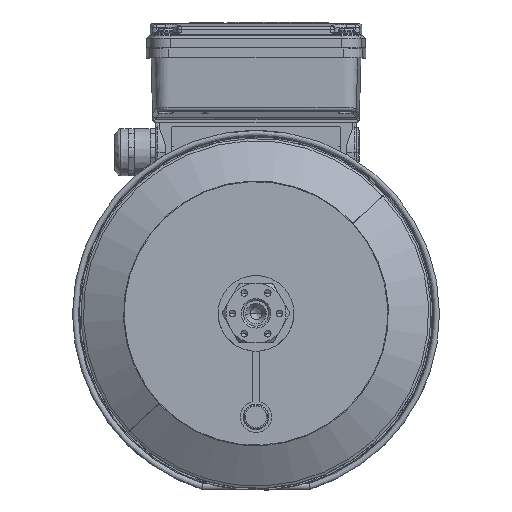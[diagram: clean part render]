
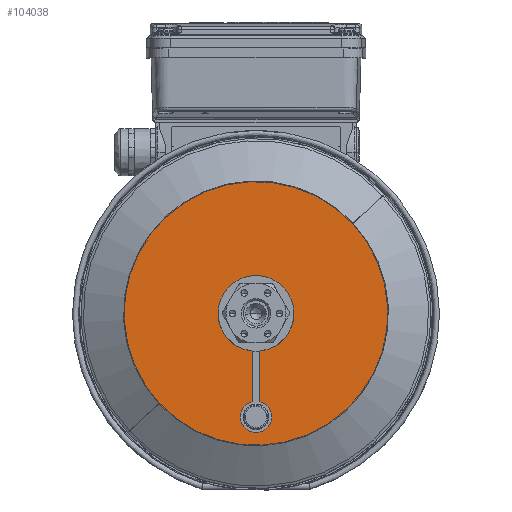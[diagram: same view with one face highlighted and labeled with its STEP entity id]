
A CAD part, top view. The second image highlights one B-rep face of the part: STEP entity #104038.
In plain terms, the highlighted planar face has unit normal (0, 0, 1).
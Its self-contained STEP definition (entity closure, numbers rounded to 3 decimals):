
#3307 = AXIS2_PLACEMENT_3D ( 'NONE', #72560, #120072, #120734 ) ;
#4101 = VERTEX_POINT ( 'NONE', #135460 ) ;
#4992 = EDGE_CURVE ( 'NONE', #43465, #4101, #65117, .T. ) ;
#6412 = CIRCLE ( 'NONE', #116705, 67.5 ) ;
#7166 = AXIS2_PLACEMENT_3D ( 'NONE', #126731, #80584, #81261 ) ;
#12981 = CARTESIAN_POINT ( 'NONE',  ( -56.845, -53.604, 245.825 ) ) ;
#14305 = FACE_BOUND ( 'NONE', #162137, .T. ) ;
#20343 = PLANE ( 'NONE',  #148301 ) ;
#22576 = VERTEX_POINT ( 'NONE', #12981 ) ;
#43465 = VERTEX_POINT ( 'NONE', #193143 ) ;
#45056 = CARTESIAN_POINT ( 'NONE',  ( 42.069, 38.271, 245.825 ) ) ;
#48198 = ORIENTED_EDGE ( 'NONE', *, *, #147908, .F. ) ;
#61026 = VERTEX_POINT ( 'NONE', #45056 ) ;
#61950 = CIRCLE ( 'NONE', #137964, 13.5 ) ;
#65117 = CIRCLE ( 'NONE', #3307, 13.5 ) ;
#68404 = CARTESIAN_POINT ( 'NONE',  ( -16.576, 2.225, 245.825 ) ) ;
#69781 = DIRECTION ( 'NONE',  ( 0., 0., -1. ) ) ;
#72560 = CARTESIAN_POINT ( 'NONE',  ( -7.388, -7.667, 245.825 ) ) ;
#78895 = ORIENTED_EDGE ( 'NONE', *, *, #165627, .T. ) ;
#80584 = DIRECTION ( 'NONE',  ( 0., 0., -1. ) ) ;
#81261 = DIRECTION ( 'NONE',  ( 0.733, 0.681, 0. ) ) ;
#84295 = DIRECTION ( 'NONE',  ( 0., 0., 1. ) ) ;
#89835 = CIRCLE ( 'NONE', #7166, 67.5 ) ;
#96208 = EDGE_LOOP ( 'NONE', ( #101298, #48198 ) ) ;
#101298 = ORIENTED_EDGE ( 'NONE', *, *, #191744, .F. ) ;
#104038 = ADVANCED_FACE ( 'NONE', ( #181834, #14305 ), #20343, .T. ) ;
#115288 = CARTESIAN_POINT ( 'NONE',  ( -7.388, -7.667, 245.825 ) ) ;
#116705 = AXIS2_PLACEMENT_3D ( 'NONE', #153139, #168226, #183357 ) ;
#120072 = DIRECTION ( 'NONE',  ( 0., 0., -1. ) ) ;
#120734 = DIRECTION ( 'NONE',  ( 0.733, 0.681, 0. ) ) ;
#126731 = CARTESIAN_POINT ( 'NONE',  ( -7.388, -7.667, 245.825 ) ) ;
#133247 = DIRECTION ( 'NONE',  ( 0.733, 0.681, 0. ) ) ;
#135460 = CARTESIAN_POINT ( 'NONE',  ( 2.503, 1.521, 245.825 ) ) ;
#137964 = AXIS2_PLACEMENT_3D ( 'NONE', #115288, #69781, #133247 ) ;
#147908 = EDGE_CURVE ( 'NONE', #22576, #61026, #6412, .T. ) ;
#148301 = AXIS2_PLACEMENT_3D ( 'NONE', #68404, #84295, #195837 ) ;
#153139 = CARTESIAN_POINT ( 'NONE',  ( -7.388, -7.667, 245.825 ) ) ;
#162137 = EDGE_LOOP ( 'NONE', ( #78895, #186674 ) ) ;
#165627 = EDGE_CURVE ( 'NONE', #4101, #43465, #61950, .T. ) ;
#168226 = DIRECTION ( 'NONE',  ( 0., 0., -1. ) ) ;
#181834 = FACE_OUTER_BOUND ( 'NONE', #96208, .T. ) ;
#183357 = DIRECTION ( 'NONE',  ( 0.733, 0.681, 0. ) ) ;
#186674 = ORIENTED_EDGE ( 'NONE', *, *, #4992, .T. ) ;
#191744 = EDGE_CURVE ( 'NONE', #61026, #22576, #89835, .T. ) ;
#193143 = CARTESIAN_POINT ( 'NONE',  ( -17.28, -16.854, 245.825 ) ) ;
#195837 = DIRECTION ( 'NONE',  ( -0.733, -0.681, 0. ) ) ;
